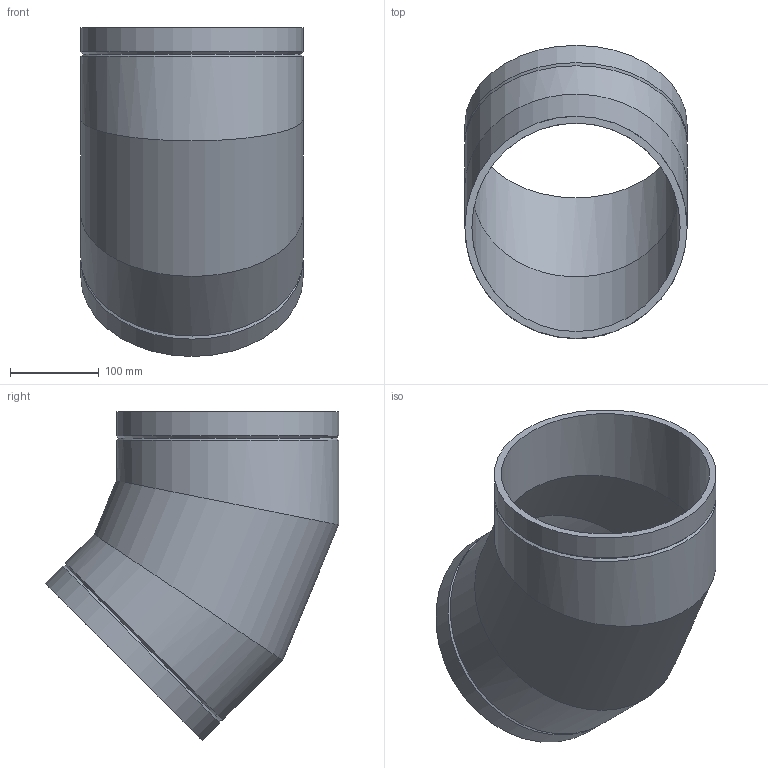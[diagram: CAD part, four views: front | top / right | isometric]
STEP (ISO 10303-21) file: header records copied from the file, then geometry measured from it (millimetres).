
FILE_DESCRIPTION(/* description */ (''),/* implementation_level */ '2;1');
FILE_NAME(/* name */ 'Z:\Geberit\Export\NewStep\371045.stp',/* time_stamp */ '2014-04-02T08:04:52+02:00',/* author */ ('nelson'),/* organization */ (''),/* preprocessor_version */ 'ST-DEVELOPER v15.2',/* originating_system */ 'Autodesk Inventor 2014',/* authorisation */ '');
FILE_SCHEMA (('AUTOMOTIVE_DESIGN { 1 0 10303 214 3 1 1 }'));
Length unit declared in the file: millimetre
Products named in the file (1): 371045
Bounding box: 250 x 330.06 x 370.06 mm (x, y, z)
Volume: 1892421.1 mm3; surface area: 502748.8 mm2
Topology: 1 solids, 1 shells, 14 faces, 34 edges, 22 vertices
Faces by surface type: cylinder 8, cone 4, plane 2
Full cylindrical faces by diameter (mm): 234.4 x3, 250 x5
Entity records: 349 total; most frequent: DIRECTION 66, CARTESIAN_POINT 51, ORIENTED_EDGE 36, AXIS2_PLACEMENT_3D 33, EDGE_LOOP 28, VERTEX_POINT 18, EDGE_CURVE 18, FACE_BOUND 16
